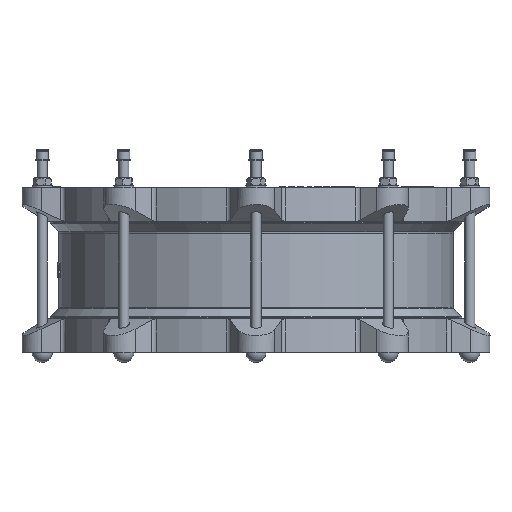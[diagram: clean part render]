
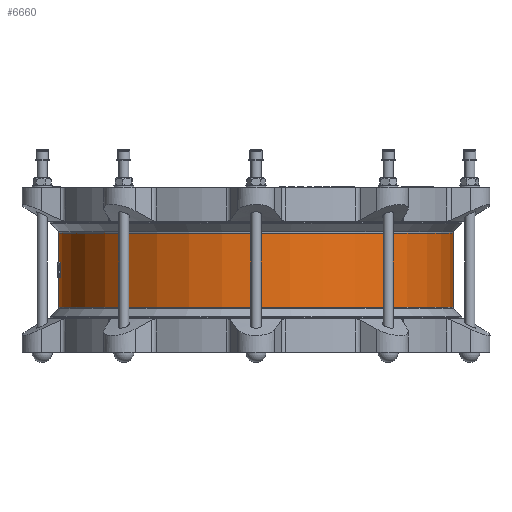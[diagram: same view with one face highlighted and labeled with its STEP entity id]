
A CAD part, left-side view. The second image highlights one B-rep face of the part: STEP entity #6660.
In plain terms, the highlighted cylindrical face has radius 273.5 mm (diameter 547 mm), a full revolution.
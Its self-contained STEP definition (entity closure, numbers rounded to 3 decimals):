
#6660=ADVANCED_FACE('',(#12345,#12347),#12349,.T.);
#12345=FACE_OUTER_BOUND('',#12346,.T.);
#12346=EDGE_LOOP('',(#18353));
#12347=FACE_OUTER_BOUND('',#12348,.T.);
#12348=EDGE_LOOP('',(#18354));
#12349=CYLINDRICAL_SURFACE('',#12350,273.5);
#12350=AXIS2_PLACEMENT_3D('',#12351,#12352,#12353);
#12351=CARTESIAN_POINT('',(0.,0.,52.8));
#12352=DIRECTION('',(0.,0.,-1.));
#12353=DIRECTION('',(0.,1.,0.));
#18353=ORIENTED_EDGE('',*,*,#20887,.T.);
#18354=ORIENTED_EDGE('',*,*,#20888,.F.);
#20887=EDGE_CURVE('',#24459,#24459,#24460,.T.);
#20888=EDGE_CURVE('',#24461,#24461,#24462,.T.);
#24459=VERTEX_POINT('',#37794);
#24460=CIRCLE('',#37795,273.5);
#24461=VERTEX_POINT('',#37799);
#24462=CIRCLE('',#37800,273.5);
#37794=CARTESIAN_POINT('',(0.,273.5,51.351));
#37795=AXIS2_PLACEMENT_3D('',#37796,#37797,#37798);
#37796=CARTESIAN_POINT('',(0.,0.,51.351));
#37797=DIRECTION('',(0.,0.,-1.));
#37798=DIRECTION('',(0.,1.,0.));
#37799=CARTESIAN_POINT('',(0.,273.5,-51.351));
#37800=AXIS2_PLACEMENT_3D('',#37801,#37802,#37803);
#37801=CARTESIAN_POINT('',(0.,0.,-51.351));
#37802=DIRECTION('',(0.,0.,-1.));
#37803=DIRECTION('',(0.,1.,0.));
